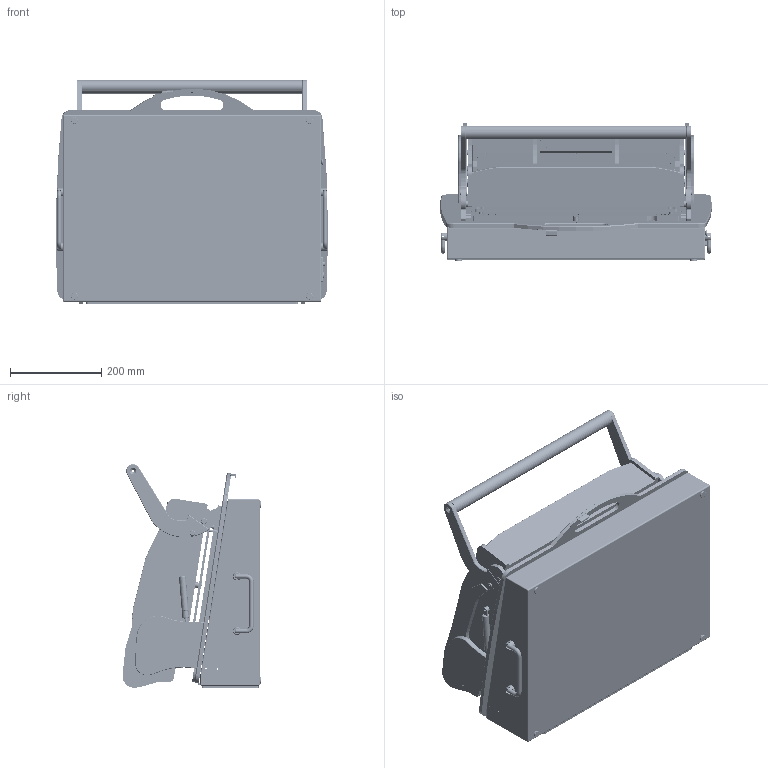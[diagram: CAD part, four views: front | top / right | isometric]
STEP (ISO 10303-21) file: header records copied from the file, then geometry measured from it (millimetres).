
FILE_DESCRIPTION (( 'STEP AP203' ), '1' );
FILE_NAME ('M13-03001-MMI-C-3D-end of linear lift.STEP', '2018-01-11T09:47:16', ( 'Admin' ), ( '' ), 'SwSTEP 2.0', 'SolidWorks 2017', '' );
FILE_SCHEMA (( 'CONFIG_CONTROL_DESIGN' ));
Length unit declared in the file: millimetre
Products named in the file (103): CXXE90-01400; CXXE90-01387; CXX334001_eingefahren; CXXE90-01395; Kopie von 283166-01^CXX283166; CXXE90-01397; CXX336001; CXXB04-00011_2-Anfang Linearhub; CXX430057; CXXISO 10642 - M5 x 16_ISO 10642 - M5 x 16; CXX681001; CXX290003; CXXE90-01269; CXXE90-01388; CXX104064; CXXE90-01396; Kopie von 283166-02^CXX283166; CXXE90-01398; Klappgriffteil 1^CXX330006; CXXE04-00031; CXXISO 10642 - M3 x 10_ISO 10642 - M3 x 10; DIN 988 -6x12x1,0_DIN 125 - A 6.4; CXX601011; Kopie von LIFT-O-MAT-ｫ 192864_1^CXX303015; CXXE90-01270; CXX403238; CXXB01-00071_R…kwand 5mm; CXXE90-01313; Kopie von 283166-03^CXX283166; CXXE90-01304; Klappgriff^CXX330006; CXXE90-01393; CXXISO 4762 M3 x 10_ISO 4762 M3 x 10 --- 10C; DIN 923 - M6 x 12 --- 9N_DIN 923 - M6 x 12 --- 9N; CXX419007; Kopie von LIFT-O-MAT-ｫ 192864_2^CXX303015; CXXE90-01274; CXX448022; CXXE05-00123; CXXE90-01343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
Assembly tree (205 placements, depth 4):
  M13-03001-MMI-C-3D-end of linear lift
    CXXB01-00071_R…kwand 5mm
      CXXE01-00117_t〉kis
      CXXE90-00080
      CXXE90-00071
      CXXE90-01229
      CXXE90-01231
      CXXE90-01614
      CXXB03-00086
        CXXE13-00017
        CXX499011
        CXX430057
        CXXISO 10642 - M3 x 10_ISO 10642 - M3 x 10
        CXXISO 4762 M3 x 10_ISO 4762 M3 x 10 --- 10C
        CXX552102
        CXXISO 4762 M4 x 6_ISO 4762 M4 x 6 --- 6C  x4
        din 6796-4_DIN 6796-4  x4
        CXX922066
      CXX336001  x4
      CXX330006  x2
        Klappgriffteil 1^CXX330006
        Klappgriff^CXX330006
      CXX331001  x3
        Kopie von 331001-01^CXX331001
        Kopie von 331001-02^CXX331001
        Kopie von 331001-03^CXX331001
      CXX283166
        Kopie von 283166-01^CXX283166
        Kopie von 283166-02^CXX283166
        Kopie von 283166-03^CXX283166
        Kopie von 283166-04^CXX283166
      CXX104070
      CXX334001_eingefahren
        Kopie von 334001-01^CXX334001
        Kopie von 334001-03^CXX334001  x2
      CXX104064
    CXXB04-00011_2-Anfang Linearhub
      CXXE05-00123
      CXXE02-00073
      CXXE03-00039
      CXXE90-01409
      CXXE90-01399
      CXXE90-01400
      CXXE90-01269  x2
      CXXE90-01270  x2
      CXXE90-01274  x4
      CXXE90-00045
      CXXE90-00251
      CXX453015  x4
      CXX426005  x4
      CXX412007
      CXX681001  x5
      CXX601011  x5
      CXX419007
      CXX440031_eingefedert  x8
      CXX445036  x2
      CXXDIN 921 - M4 x 10_DIN 921 - M4 x 10  x4
      DIN 923 - M4 x 20_DIN 923 - M4 x 20  x4
      ISO 7380 FL M3 x 6_3x6
    CXXB02-00067_2-Anfang Linearhub
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Bounding box: 597.42 x 305.08 x 491.51 mm (x, y, z)
Volume: 9455034.4 mm3; surface area: 3330369.4 mm2
Topology: 205 solids, 205 shells, 6843 faces, 16876 edges, 10667 vertices
Faces by surface type: cylinder 2858, plane 2661, cone 824, torus 424, bspline 62, sphere 14
Entity records: 175426 total; most frequent: CARTESIAN_POINT 39263, DIRECTION 26730, ORIENTED_EDGE 24874, EDGE_CURVE 12437, AXIS2_PLACEMENT_3D 9963, VERTEX_POINT 7962, VECTOR 6804, LINE 6804
